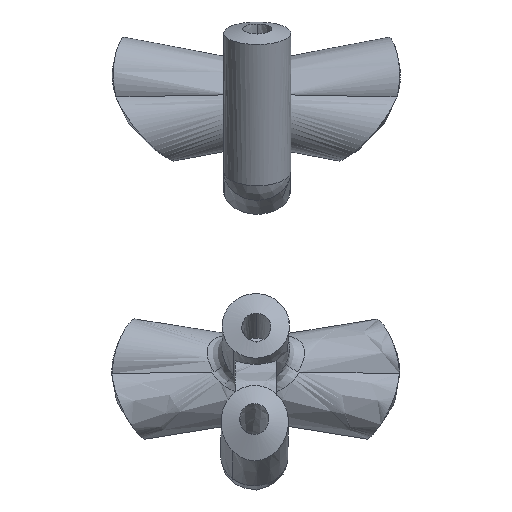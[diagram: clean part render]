
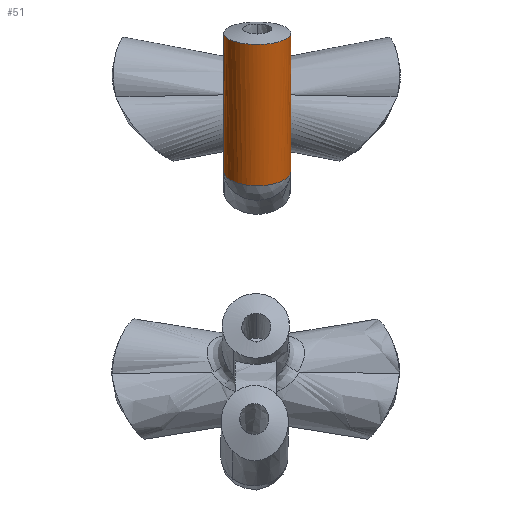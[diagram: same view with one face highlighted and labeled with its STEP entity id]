
A CAD part, top view. The second image highlights one B-rep face of the part: STEP entity #51.
In plain terms, the highlighted free-form (B-spline) face has degree [3, 2] with [11, 5] control points.
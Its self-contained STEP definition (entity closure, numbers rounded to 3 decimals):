
#51=ADVANCED_FACE('',(#158),#1599,.T.);
#158=FACE_OUTER_BOUND('',#260,.T.);
#260=EDGE_LOOP('',(#495,#496,#497,#498,#499));
#495=ORIENTED_EDGE('',*,*,#1004,.T.);
#496=ORIENTED_EDGE('',*,*,#927,.F.);
#497=ORIENTED_EDGE('',*,*,#925,.F.);
#498=ORIENTED_EDGE('',*,*,#923,.F.);
#499=ORIENTED_EDGE('',*,*,#926,.T.);
#923=EDGE_CURVE('',#1436,#1435,#1161,.T.);
#925=EDGE_CURVE('',#1435,#1437,#1331,.T.);
#926=EDGE_CURVE('',#1436,#1488,#1332,.T.);
#927=EDGE_CURVE('',#1437,#1489,#1162,.T.);
#1004=EDGE_CURVE('',#1488,#1489,#1350,.T.);
#1161=B_SPLINE_CURVE_WITH_KNOTS('',3,(#5048,#5049,#5050,#5051),
 .UNSPECIFIED.,.F.,.F.,(4,4),(0.,0.034),
 .UNSPECIFIED.);
#1162=B_SPLINE_CURVE_WITH_KNOTS('',3,(#5068,#5069,#5070,#5071,#5072,#5073,
#5074,#5075,#5076,#5077,#5078,#5079,#5080,#5081,#5082,#5083,#5084,#5085,
#5086,#5087,#5088,#5089,#5090,#5091),.UNSPECIFIED.,.F.,.F.,(4,3,2,2,3,3,
2,2,3,4),(0.,0.364,2.984,4.284,5.584,
5.591,6.889,8.187,10.803,11.168),
 .UNSPECIFIED.);
#1331=(
BOUNDED_CURVE()
B_SPLINE_CURVE(3,(#5059,#5060,#5061,#5062),.UNSPECIFIED.,.F.,.F.)
B_SPLINE_CURVE_WITH_KNOTS((4,4),(0.01,15.907),
 .UNSPECIFIED.)
CURVE()
GEOMETRIC_REPRESENTATION_ITEM()
RATIONAL_B_SPLINE_CURVE((1.,1.,1.,1.))
REPRESENTATION_ITEM('')
);
#1332=(
BOUNDED_CURVE()
B_SPLINE_CURVE(2,(#5063,#5064,#5065,#5066,#5067),.UNSPECIFIED.,.F.,.F.)
B_SPLINE_CURVE_WITH_KNOTS((3,2,3),(0.009,1.575,
3.142),.UNSPECIFIED.)
CURVE()
GEOMETRIC_REPRESENTATION_ITEM()
RATIONAL_B_SPLINE_CURVE((1.,0.709,1.,0.709,1.))
REPRESENTATION_ITEM('')
);
#1350=(
BOUNDED_CURVE()
B_SPLINE_CURVE(3,(#5981,#5982,#5983,#5984),.UNSPECIFIED.,.F.,.F.)
B_SPLINE_CURVE_WITH_KNOTS((4,4),(0.,15.909),
 .UNSPECIFIED.)
CURVE()
GEOMETRIC_REPRESENTATION_ITEM()
RATIONAL_B_SPLINE_CURVE((1.,1.,1.,1.))
REPRESENTATION_ITEM('')
);
#1435=VERTEX_POINT('',#4044);
#1436=VERTEX_POINT('',#4045);
#1437=VERTEX_POINT('',#4046);
#1488=VERTEX_POINT('',#4097);
#1489=VERTEX_POINT('',#4098);
#1599=(
BOUNDED_SURFACE()
B_SPLINE_SURFACE(3,2,((#3552,#3553,#3554,#3555,#3556),(#3557,#3558,#3559,
#3560,#3561),(#3562,#3563,#3564,#3565,#3566),(#3567,#3568,#3569,#3570,#3571),
(#3572,#3573,#3574,#3575,#3576),(#3577,#3578,#3579,#3580,#3581),(#3582,
#3583,#3584,#3585,#3586),(#3587,#3588,#3589,#3590,#3591),(#3592,#3593,#3594,
#3595,#3596),(#3597,#3598,#3599,#3600,#3601),(#3602,#3603,#3604,#3605,#3606)),
 .UNSPECIFIED.,.F.,.F.,.F.)
B_SPLINE_SURFACE_WITH_KNOTS((4,1,1,1,1,1,1,1,4),(3,2,3),(0.,70.523,
143.218,218.422,296.436,377.534,461.956,
549.917,641.607),(10.996,16.493,21.991),
 .UNSPECIFIED.)
GEOMETRIC_REPRESENTATION_ITEM()
RATIONAL_B_SPLINE_SURFACE(((1.,0.707,1.,0.707,1.),
(1.,0.707,1.,0.707,1.),(1.,0.707,
1.,0.707,1.),(1.,0.707,
1.,0.707,1.),(1.,0.707,1.,0.707,1.),
(1.,0.707,1.,0.707,1.),(1.,0.707,1.,
0.707,1.),(1.,0.707,1.,0.707,1.),(1.,
0.707,1.,0.707,1.),(1.,0.707,1.,0.707,
1.),(1.,0.707,1.,0.707,1.)))
REPRESENTATION_ITEM('')
SURFACE()
);
#3552=CARTESIAN_POINT('',(1.074,-624.814,82.454));
#3553=CARTESIAN_POINT('',(1.075,-626.367,85.59));
#3554=CARTESIAN_POINT('',(-2.425,-626.369,85.59));
#3555=CARTESIAN_POINT('',(-5.925,-626.371,85.59));
#3556=CARTESIAN_POINT('',(-5.926,-624.818,82.454));
#3557=CARTESIAN_POINT('',(1.064,-603.747,92.883));
#3558=CARTESIAN_POINT('',(1.064,-605.222,96.059));
#3559=CARTESIAN_POINT('',(-2.436,-605.223,96.059));
#3560=CARTESIAN_POINT('',(-5.936,-605.225,96.059));
#3561=CARTESIAN_POINT('',(-5.936,-603.751,92.883));
#3562=CARTESIAN_POINT('',(1.041,-560.168,112.452));
#3563=CARTESIAN_POINT('',(1.042,-561.486,115.698));
#3564=CARTESIAN_POINT('',(-2.458,-561.488,115.698));
#3565=CARTESIAN_POINT('',(-5.958,-561.489,115.698));
#3566=CARTESIAN_POINT('',(-5.959,-560.172,112.452));
#3567=CARTESIAN_POINT('',(1.006,-491.783,137.562));
#3568=CARTESIAN_POINT('',(1.007,-492.877,140.889));
#3569=CARTESIAN_POINT('',(-2.493,-492.879,140.889));
#3570=CARTESIAN_POINT('',(-5.993,-492.881,140.889));
#3571=CARTESIAN_POINT('',(-5.994,-491.787,137.562));
#3572=CARTESIAN_POINT('',(0.969,-419.504,158.828));
#3573=CARTESIAN_POINT('',(0.97,-420.385,162.217));
#3574=CARTESIAN_POINT('',(-2.53,-420.386,162.217));
#3575=CARTESIAN_POINT('',(-6.03,-420.388,162.217));
#3576=CARTESIAN_POINT('',(-6.031,-419.507,158.828));
#3577=CARTESIAN_POINT('',(0.93,-343.335,176.255));
#3578=CARTESIAN_POINT('',(0.931,-344.014,179.691));
#3579=CARTESIAN_POINT('',(-2.569,-344.016,179.691));
#3580=CARTESIAN_POINT('',(-6.069,-344.018,179.691));
#3581=CARTESIAN_POINT('',(-6.07,-343.338,176.255));
#3582=CARTESIAN_POINT('',(0.889,-263.271,189.85));
#3583=CARTESIAN_POINT('',(0.89,-263.762,193.317));
#3584=CARTESIAN_POINT('',(-2.61,-263.764,193.317));
#3585=CARTESIAN_POINT('',(-6.11,-263.766,193.317));
#3586=CARTESIAN_POINT('',(-6.111,-263.275,189.85));
#3587=CARTESIAN_POINT('',(0.846,-179.317,199.615));
#3588=CARTESIAN_POINT('',(0.846,-179.633,203.102));
#3589=CARTESIAN_POINT('',(-2.654,-179.635,203.102));
#3590=CARTESIAN_POINT('',(-6.154,-179.637,203.102));
#3591=CARTESIAN_POINT('',(-6.154,-179.32,199.615));
#3592=CARTESIAN_POINT('',(0.801,-91.469,205.554));
#3593=CARTESIAN_POINT('',(0.801,-91.623,209.051));
#3594=CARTESIAN_POINT('',(-2.699,-91.625,209.051));
#3595=CARTESIAN_POINT('',(-6.199,-91.627,209.051));
#3596=CARTESIAN_POINT('',(-6.199,-91.472,205.554));
#3597=CARTESIAN_POINT('',(0.771,-31.588,206.934));
#3598=CARTESIAN_POINT('',(0.771,-31.645,210.434));
#3599=CARTESIAN_POINT('',(-2.729,-31.647,210.434));
#3600=CARTESIAN_POINT('',(-6.229,-31.649,210.434));
#3601=CARTESIAN_POINT('',(-6.229,-31.591,206.934));
#3602=CARTESIAN_POINT('',(0.755,-1.025,207.027));
#3603=CARTESIAN_POINT('',(0.755,-1.035,210.527));
#3604=CARTESIAN_POINT('',(-2.745,-1.037,210.527));
#3605=CARTESIAN_POINT('',(-6.245,-1.039,210.527));
#3606=CARTESIAN_POINT('',(-6.245,-1.028,207.027));
#4044=CARTESIAN_POINT('',(-5.926,-624.809,82.458));
#4045=CARTESIAN_POINT('',(-5.926,-624.832,82.483));
#4046=CARTESIAN_POINT('',(-5.933,-610.503,89.391));
#4097=CARTESIAN_POINT('',(1.074,-624.814,82.454));
#4098=CARTESIAN_POINT('',(1.067,-610.498,89.391));
#5048=CARTESIAN_POINT('',(-5.926,-624.832,82.483));
#5049=CARTESIAN_POINT('',(-5.926,-624.824,82.475));
#5050=CARTESIAN_POINT('',(-5.926,-624.816,82.466));
#5051=CARTESIAN_POINT('',(-5.926,-624.809,82.458));
#5059=CARTESIAN_POINT('',(-5.926,-624.809,82.458));
#5060=CARTESIAN_POINT('',(-5.928,-620.06,84.809));
#5061=CARTESIAN_POINT('',(-5.931,-615.291,87.12));
#5062=CARTESIAN_POINT('',(-5.933,-610.503,89.391));
#5063=CARTESIAN_POINT('',(-5.926,-624.832,82.483));
#5064=CARTESIAN_POINT('',(-5.893,-626.378,85.605));
#5065=CARTESIAN_POINT('',(-2.409,-626.369,85.59));
#5066=CARTESIAN_POINT('',(1.075,-626.36,85.576));
#5067=CARTESIAN_POINT('',(1.074,-624.814,82.454));
#5068=CARTESIAN_POINT('',(-5.933,-610.503,89.391));
#5069=CARTESIAN_POINT('',(-5.933,-610.544,89.505));
#5070=CARTESIAN_POINT('',(-5.927,-610.584,89.619));
#5071=CARTESIAN_POINT('',(-5.914,-610.624,89.732));
#5072=CARTESIAN_POINT('',(-5.825,-610.913,90.546));
#5073=CARTESIAN_POINT('',(-5.422,-611.181,91.3));
#5074=CARTESIAN_POINT('',(-4.461,-611.474,92.122));
#5075=CARTESIAN_POINT('',(-4.092,-611.55,92.337));
#5076=CARTESIAN_POINT('',(-3.289,-611.654,92.63));
#5077=CARTESIAN_POINT('',(-2.863,-611.681,92.705));
#5078=CARTESIAN_POINT('',(-2.432,-611.681,92.705));
#5079=CARTESIAN_POINT('',(-2.43,-611.681,92.705));
#5080=CARTESIAN_POINT('',(-2.428,-611.681,92.705));
#5081=CARTESIAN_POINT('',(-2.426,-611.681,92.705));
#5082=CARTESIAN_POINT('',(-1.996,-611.68,92.704));
#5083=CARTESIAN_POINT('',(-1.57,-611.653,92.629));
#5084=CARTESIAN_POINT('',(-0.769,-611.547,92.335));
#5085=CARTESIAN_POINT('',(-0.401,-611.47,92.121));
#5086=CARTESIAN_POINT('',(0.557,-611.176,91.299));
#5087=CARTESIAN_POINT('',(0.959,-610.907,90.546));
#5088=CARTESIAN_POINT('',(1.048,-610.62,89.734));
#5089=CARTESIAN_POINT('',(1.061,-610.579,89.62));
#5090=CARTESIAN_POINT('',(1.067,-610.539,89.506));
#5091=CARTESIAN_POINT('',(1.067,-610.498,89.391));
#5981=CARTESIAN_POINT('',(1.074,-624.814,82.454));
#5982=CARTESIAN_POINT('',(1.072,-620.062,84.806));
#5983=CARTESIAN_POINT('',(1.069,-615.289,87.119));
#5984=CARTESIAN_POINT('',(1.067,-610.498,89.391));
